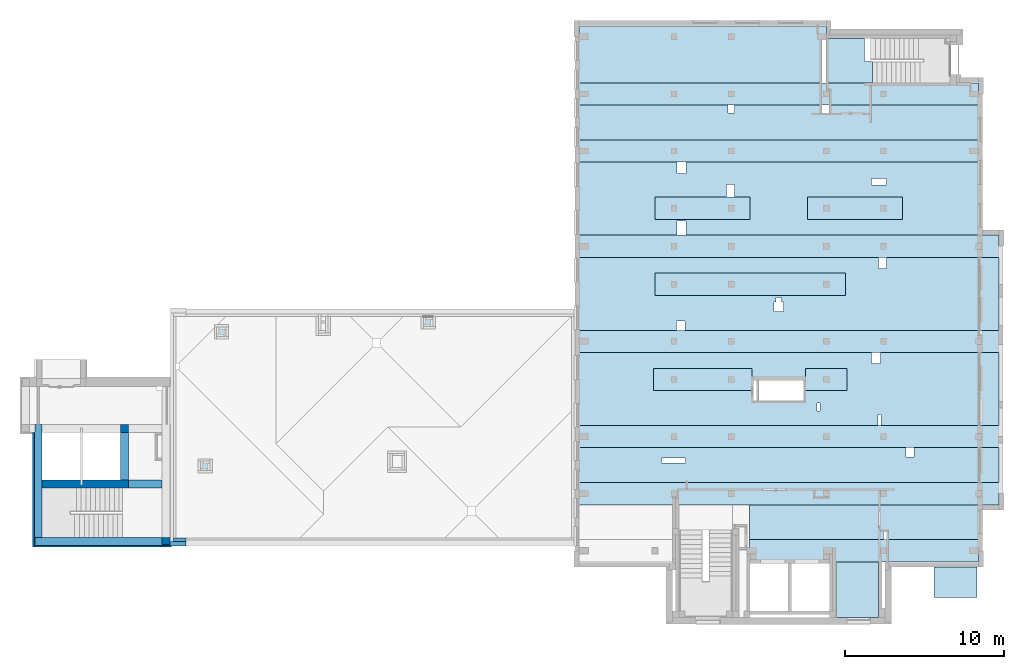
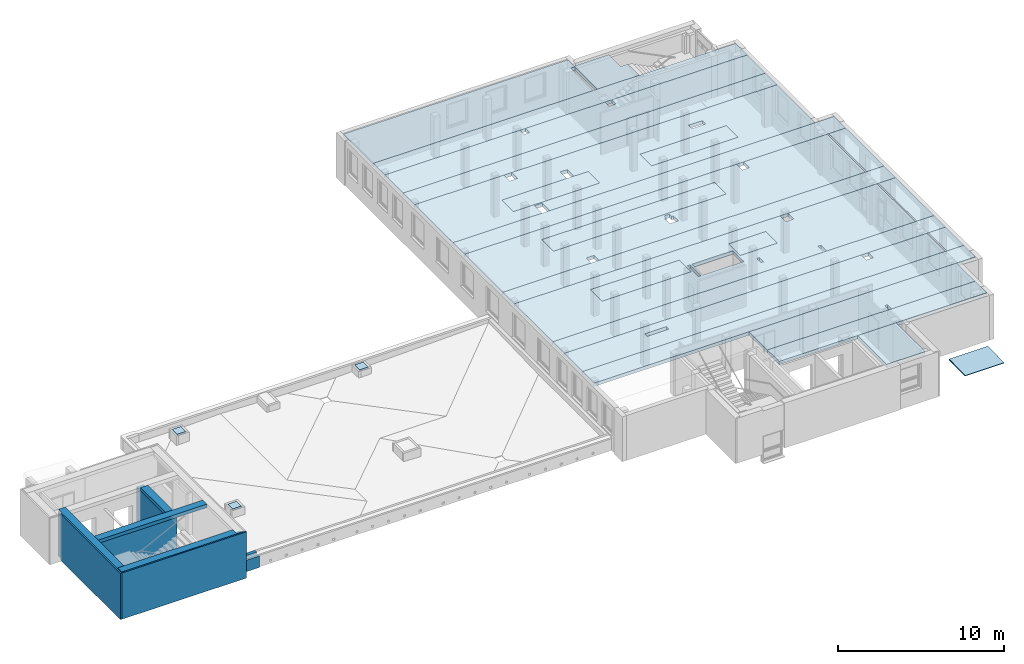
# One storey, part 3 of 27: 28 slabs, 10 walls, 19 openings, 1 element without a shape of its own.
"""IFC4 building model written with IfcOpenShell, lengths in metres."""

from ifc_helpers import new_model, entity, si_unit, converted_unit, derived_unit, frame, frame_2d, origin, origin_with_axes, place, context, subcontext, project, spatial, polyline, rectangle, outline, extrude, clip, bounded_halfspace, material, layer, layer_set, layer_usage, element, aggregate, save


model = new_model("IFC4")

# Units and contexts
model_context = context("Model", 3, precision=1e-05, world=origin())
body_context = subcontext(model_context, "Body", "Model", "MODEL_VIEW")
ifc_project = project(units=[si_unit("LENGTHUNIT", "METRE"), si_unit("AREAUNIT", "SQUARE_METRE"), si_unit("VOLUMEUNIT", "CUBIC_METRE"), si_unit("MASSUNIT", "GRAM", prefix="KILO"), converted_unit("PLANEANGLEUNIT", "DEGREE", entity("IfcPlaneAngleMeasure", 0.0174532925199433), si_unit("PLANEANGLEUNIT", "RADIAN"), dimensions=[0, 0, 0, 0, 0, 0, 0]), derived_unit("THERMALTRANSMITTANCEUNIT", [(si_unit("POWERUNIT", "WATT"), 1), (si_unit("THERMODYNAMICTEMPERATUREUNIT", "KELVIN"), -1), (si_unit("LENGTHUNIT", "METRE"), -2)]), derived_unit("VOLUMETRICFLOWRATEUNIT", [(si_unit("LENGTHUNIT", "METRE"), 3), (converted_unit("TIMEUNIT", "hour", entity("IfcTimeMeasure", 3600.0), si_unit("TIMEUNIT", "SECOND"), dimensions=[0, 0, 1, 0, 0, 0, 0]), -1), (si_unit("LENGTHUNIT", "METRE"), -1)])], contexts=[model_context])

# Site, building, storey
site_placement = place(None, origin())
site = spatial("IfcSite", under=ifc_project, at=site_placement, Name="3. ASŘ", CompositionType="ELEMENT")
building_placement = place(site_placement, origin())
building = spatial("IfcBuilding", under=site, at=building_placement, Name="Pavilon C", CompositionType="ELEMENT")
storey_placement = place(building_placement, frame((0.0, 0.0, 7.2)))
storey = spatial("IfcBuildingStorey", under=building, at=storey_placement, Name="Půdorys 3.NP", CompositionType="ELEMENT", Elevation=7.2)

# Slab, opening
ifc_material_1 = material(Name="PZD")
slab_1_placement = place(storey_placement, frame((35.52, 0.699999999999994, 2.95)))
slab_1 = element("IfcSlab", 1, at=slab_1_placement, inside=storey, material=ifc_material_1, PredefinedType="FLOOR", context=body_context, shape_type="SweptSolid", body=[
    extrude(rectangle(XDim=14.43, YDim=2.2, at=frame_2d((7.215, 1.1), x_axis=(1.0, -7.87850573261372e-18))), frame((0.0, 1.13686837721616e-16, 0.0), z_axis=(0.0, 0.0, 1.0), x_axis=(1.0, 0.0, 0.0)), (0.0, 0.0, 1.0), 0.25),
])
opening_1_placement = place(slab_1_placement, frame((8.43, -1.70530256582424e-15, 0.0)))
element("IfcOpeningElement", 2, at=opening_1_placement, cuts=slab_1, Name="Prostup deskou", ObjectType="Opening", context=body_context, shape_type="SweptSolid", body=[
    extrude(rectangle(XDim=0.5, YDim=0.2, at=frame_2d((7.27595761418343e-15, 0.0), x_axis=(0.0, -1.0))), frame((0.0999999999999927, 0.25, 0.0), z_axis=(0.0, 0.0, 1.0), x_axis=(1.0, 0.0, 0.0)), (0.0, 0.0, 1.0), 0.25),
])

# Slabs
ifc_material_2 = material(Name="RZT")
slab_2_placement = place(storey_placement, frame((39.15, 20.9, 2.95)))
element("IfcSlab", 3, at=slab_2_placement, inside=storey, material=ifc_material_2, PredefinedType="FLOOR", context=body_context, shape_type="SweptSolid", body=[
    extrude(rectangle(XDim=1.4, YDim=6.0, at=frame_2d((-3.0, 0.7), x_axis=(0.0, 1.0))), frame((6.0, 0.0, 0.0), z_axis=(0.0, 0.0, 1.0), x_axis=(1.0, 0.0, 0.0)), (0.0, 0.0, 1.0), 0.25),
])
ifc_material_3 = material(Name="RZT")
slab_3_placement = place(storey_placement, frame((24.75, 24.5, 2.95)))
element("IfcSlab", 4, at=slab_3_placement, inside=storey, material=ifc_material_3, PredefinedType="FLOOR", context=body_context, shape_type="SweptSolid", body=[
    extrude(rectangle(XDim=1.4, YDim=25.2, at=frame_2d((-12.6, 0.700000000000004), x_axis=(0.0, 1.0))), frame((25.2, 0.0, 0.0), z_axis=(0.0, 0.0, 1.0), x_axis=(1.0, 0.0, 0.0)), (0.0, 0.0, 1.0), 0.25),
])
ifc_material_4 = material(Name="RZT")
slab_4_placement = place(storey_placement, frame((29.55, 20.9, 2.95)))
element("IfcSlab", 5, at=slab_4_placement, inside=storey, material=ifc_material_4, PredefinedType="FLOOR", context=body_context, shape_type="SweptSolid", body=[
    extrude(rectangle(XDim=1.4, YDim=6.0, at=frame_2d((-3.0, 0.7), x_axis=(0.0, 1.0))), frame((6.0, 0.0, 0.0), z_axis=(0.0, 0.0, 1.0), x_axis=(1.0, 0.0, 0.0)), (0.0, 0.0, 1.0), 0.25),
])

# Slab, openings
ifc_material_5 = material(Name="PZD")
slab_5_placement = place(storey_placement, frame((24.75, 19.9, 2.95)))
slab_5 = element("IfcSlab", 6, at=slab_5_placement, inside=storey, material=ifc_material_5, PredefinedType="FLOOR", context=body_context, shape_type="SweptSolid", body=[
    extrude(outline(polyline([(0.0, 4.59999999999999), (0.0, 0.0), (25.2, 0.0), (25.2, 4.59999999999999), (0.0, 4.59999999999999)]), holes=[polyline([(20.4, 0.999999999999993), (14.4, 0.999999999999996), (14.4, 2.4), (20.4, 2.4), (20.4, 0.999999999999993)]), polyline([(4.8, 0.999999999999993), (4.8, 2.4), (10.8, 2.39999999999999), (10.8, 0.999999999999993), (4.8, 0.999999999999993)])]), origin_with_axes(), (0.0, 0.0, 1.0), 0.25),
])
opening_2_placement = place(slab_5_placement, frame((6.2, 3.9, 0.0)))
element("IfcOpeningElement", 7, at=opening_2_placement, cuts=slab_5, Name="Prostup deskou", ObjectType="Opening", context=body_context, shape_type="SweptSolid", body=[
    extrude(rectangle(XDim=0.7, YDim=0.55, at=frame_2d((7.27595761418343e-15, -3.63797880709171e-15), x_axis=(0.0, -1.0))), frame((0.274999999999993, 0.350000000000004, 0.0), z_axis=(0.0, 0.0, 1.0), x_axis=(1.0, 0.0, 0.0)), (0.0, 0.0, 1.0), 0.25),
])
opening_3_placement = place(slab_5_placement, frame((9.3, 2.4, 0.0)))
element("IfcOpeningElement", 8, at=opening_3_placement, cuts=slab_5, Name="Prostup deskou", ObjectType="Opening", context=body_context, shape_type="SweptSolid", body=[
    extrude(rectangle(XDim=0.8, YDim=0.5, at=frame_2d((7.27595761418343e-15, -3.63797880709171e-15), x_axis=(0.0, -1.0))), frame((0.249999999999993, 0.400000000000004, 0.0), z_axis=(0.0, 0.0, 1.0), x_axis=(1.0, 0.0, 0.0)), (0.0, 0.0, 1.0), 0.25),
])
opening_4_placement = place(slab_5_placement, frame((18.45, 3.17499999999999, 0.0)))
element("IfcOpeningElement", 9, at=opening_4_placement, cuts=slab_5, Name="Prostup deskou", ObjectType="Opening", context=body_context, shape_type="SweptSolid", body=[
    extrude(rectangle(XDim=0.4, YDim=0.95, at=frame_2d((7.27595761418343e-15, -3.63797880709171e-15), x_axis=(0.0, -1.0))), frame((0.474999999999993, 0.200000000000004, 0.0), z_axis=(0.0, 0.0, 1.0), x_axis=(1.0, 0.0, 0.0)), (0.0, 0.0, 1.0), 0.25),
])
opening_5_placement = place(slab_5_placement, frame((6.2, 0.0, 0.0)))
element("IfcOpeningElement", 10, at=opening_5_placement, cuts=slab_5, Name="Prostup deskou", ObjectType="Opening", context=body_context, shape_type="SweptSolid", body=[
    extrude(rectangle(XDim=0.9, YDim=0.55, at=frame_2d((7.27595761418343e-15, 0.0), x_axis=(0.0, -1.0))), frame((0.274999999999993, 0.45, 0.0), z_axis=(0.0, 0.0, 1.0), x_axis=(1.0, 0.0, 0.0)), (0.0, 0.0, 1.0), 0.25),
])

# Slabs
ifc_material_6 = material(Name="RZT")
slab_6_placement = place(storey_placement, frame((29.55, 16.1, 2.95)))
element("IfcSlab", 11, at=slab_6_placement, inside=storey, material=ifc_material_6, PredefinedType="FLOOR", context=body_context, shape_type="SweptSolid", body=[
    extrude(rectangle(XDim=1.4, YDim=12.0, at=frame_2d((-6.0, 0.7), x_axis=(0.0, 1.0))), frame((12.0, 0.0, 0.0), z_axis=(0.0, 0.0, 1.0), x_axis=(1.0, 0.0, 0.0)), (0.0, 0.0, 1.0), 0.25),
])
ifc_material_7 = material(Name="PZD")
slab_7_placement = place(storey_placement, frame((50.05, 13.9, 2.95)))
element("IfcSlab", 12, at=slab_7_placement, inside=storey, material=ifc_material_7, PredefinedType="FLOOR", context=body_context, shape_type="SweptSolid", body=[
    extrude(rectangle(XDim=1.2, YDim=4.6, at=frame_2d((0.6, 2.3), x_axis=(1.0, 0.0))), origin_with_axes(), (0.0, 0.0, 1.0), 0.25),
])
ifc_material_8 = material(Name="PZD")
slab_8_placement = place(storey_placement, frame((50.05, 7.89999999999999, 2.95)))
element("IfcSlab", 13, at=slab_8_placement, inside=storey, material=ifc_material_8, PredefinedType="FLOOR", context=body_context, shape_type="SweptSolid", body=[
    extrude(rectangle(XDim=1.2, YDim=4.6, at=frame_2d((0.6, 2.3), x_axis=(1.0, 0.0))), origin_with_axes(), (0.0, 0.0, 1.0), 0.25),
])
ifc_material_9 = material(Name="PZD")
slab_9_placement = place(storey_placement, frame((50.05, 4.29999999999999, 2.95)))
element("IfcSlab", 14, at=slab_9_placement, inside=storey, material=ifc_material_9, PredefinedType="FLOOR", context=body_context, shape_type="SweptSolid", body=[
    extrude(rectangle(XDim=1.2, YDim=2.2, at=frame_2d((0.6, 1.1), x_axis=(1.0, 0.0))), origin_with_axes(), (0.0, 0.0, 1.0), 0.25),
])
ifc_material_10 = material(Name="RZT")
slab_10_placement = place(storey_placement, frame((24.75, 2.89999999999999, 2.95)))
element("IfcSlab", 15, at=slab_10_placement, inside=storey, material=ifc_material_10, PredefinedType="FLOOR", context=body_context, shape_type="SweptSolid", body=[
    extrude(rectangle(XDim=1.4, YDim=26.5, at=frame_2d((-13.25, 0.700000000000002), x_axis=(0.0, 1.0))), frame((26.5, 0.0, 0.0), z_axis=(0.0, 0.0, 1.0), x_axis=(1.0, 0.0, 0.0)), (0.0, 0.0, 1.0), 0.25),
])
ifc_material_11 = material(Name="RZT")
slab_11_placement = place(storey_placement, frame((24.75, 18.5, 2.95)))
element("IfcSlab", 16, at=slab_11_placement, inside=storey, material=ifc_material_11, PredefinedType="FLOOR", context=body_context, shape_type="SweptSolid", body=[
    extrude(rectangle(XDim=1.4, YDim=26.5, at=frame_2d((-13.25, 0.7), x_axis=(0.0, 1.0))), frame((26.5, 0.0, 0.0), z_axis=(0.0, 0.0, 1.0), x_axis=(1.0, 0.0, 0.0)), (0.0, 0.0, 1.0), 0.25),
])

# Slab, openings
ifc_material_12 = material(Name="PZD")
slab_12_placement = place(storey_placement, frame((24.75, 13.9, 2.95)))
slab_12 = element("IfcSlab", 17, at=slab_12_placement, inside=storey, material=ifc_material_12, PredefinedType="FLOOR", context=body_context, shape_type="SweptSolid", body=[
    extrude(outline(polyline([(0.0, 4.6), (0.0, 0.0), (25.2, 0.0), (25.2, 4.6), (0.0, 4.6)]), holes=[polyline([(4.8, 3.6), (16.8, 3.6), (16.8, 2.2), (4.8, 2.2), (4.8, 3.6)])]), origin_with_axes(), (0.0, 0.0, 1.0), 0.25),
])
opening_6_placement = place(slab_12_placement, frame((6.15, 0.0, 0.0)))
element("IfcOpeningElement", 18, at=opening_6_placement, cuts=slab_12, Name="Prostup deskou", ObjectType="Opening", context=body_context, shape_type="SweptSolid", body=[
    extrude(rectangle(XDim=0.6, YDim=0.55, at=frame_2d((7.27595761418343e-15, -1.81898940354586e-15), x_axis=(0.0, -1.0))), frame((0.274999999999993, 0.300000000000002, 0.0), z_axis=(0.0, 0.0, 1.0), x_axis=(1.0, 0.0, 0.0)), (0.0, 0.0, 1.0), 0.25),
])
opening_7_placement = place(slab_12_placement, frame((18.9, 3.9, 0.0)))
element("IfcOpeningElement", 19, at=opening_7_placement, cuts=slab_12, Name="Prostup deskou", ObjectType="Opening", context=body_context, shape_type="SweptSolid", body=[
    extrude(rectangle(XDim=0.7, YDim=0.5, at=frame_2d((7.27595761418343e-15, -3.63797880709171e-15), x_axis=(0.0, -1.0))), frame((0.249999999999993, 0.350000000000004, 0.0), z_axis=(0.0, 0.0, 1.0), x_axis=(1.0, 0.0, 0.0)), (0.0, 0.0, 1.0), 0.25),
])
opening_8_placement = place(slab_12_placement, frame((12.425, 1.8, 0.0)))
element("IfcOpeningElement", 20, at=opening_8_placement, cuts=slab_12, Name="Prostup deskou", ObjectType="Opening", context=body_context, shape_type="SweptSolid", body=[
    extrude(rectangle(XDim=0.275, YDim=0.35, at=frame_2d((7.27595761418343e-15, -3.63797880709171e-15), x_axis=(0.0, -1.0))), frame((0.174999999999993, 0.137500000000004, 0.0), z_axis=(0.0, 0.0, 1.0), x_axis=(1.0, 0.0, 0.0)), (0.0, 0.0, 1.0), 0.25),
])
opening_9_placement = place(slab_12_placement, frame((12.3, 1.2, 0.0)))
element("IfcOpeningElement", 21, at=opening_9_placement, cuts=slab_12, Name="Prostup deskou", ObjectType="Opening", context=body_context, shape_type="SweptSolid", body=[
    extrude(rectangle(XDim=0.6, YDim=0.6, at=frame_2d((7.27595761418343e-15, -3.63797880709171e-15), x_axis=(0.0, -1.0))), frame((0.299999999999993, 0.300000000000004, 0.0), z_axis=(0.0, 0.0, 1.0), x_axis=(1.0, 0.0, 0.0)), (0.0, 0.0, 1.0), 0.25),
])

# Slabs
ifc_material_13 = material(Name="PZD")
slab_13_placement = place(storey_placement, frame((40.98, -4.2, 2.95)))
element("IfcSlab", 22, at=slab_13_placement, inside=storey, material=ifc_material_13, PredefinedType="FLOOR", context=body_context, shape_type="SweptSolid", body=[
    extrude(rectangle(XDim=3.5, YDim=2.67, at=frame_2d((1.335, -1.75), x_axis=(-2.07884503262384e-15, -1.0))), frame((7.27595761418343e-15, 3.5, 0.0), z_axis=(0.0, 0.0, 1.0), x_axis=(1.0, 0.0, 0.0)), (0.0, 0.0, 1.0), 0.25),
])
ifc_material_14 = material(Name="RZT")
slab_14_placement = place(storey_placement, frame((35.52, -0.700000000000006, 2.95)))
element("IfcSlab", 23, at=slab_14_placement, inside=storey, material=ifc_material_14, PredefinedType="FLOOR", context=body_context, shape_type="SweptSolid", body=[
    extrude(rectangle(XDim=1.4, YDim=14.43, at=frame_2d((-7.215, 0.700000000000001), x_axis=(0.0, 1.0))), frame((14.43, 0.0, 0.0), z_axis=(0.0, 0.0, 1.0), x_axis=(1.0, 0.0, 0.0)), (0.0, 0.0, 1.0), 0.25),
])
ifc_material_15 = material(Name="RZT")
slab_15_placement = place(storey_placement, frame((24.75, 6.49999999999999, 2.95)))
element("IfcSlab", 24, at=slab_15_placement, inside=storey, material=ifc_material_15, PredefinedType="FLOOR", context=body_context, shape_type="SweptSolid", body=[
    extrude(rectangle(XDim=1.4, YDim=26.5, at=frame_2d((-13.25, 0.700000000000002), x_axis=(0.0, 1.0))), frame((26.5, 0.0, 0.0), z_axis=(0.0, 0.0, 1.0), x_axis=(1.0, 0.0, 0.0)), (0.0, 0.0, 1.0), 0.25),
])
ifc_material_16 = material(Name="RZT")
slab_16_placement = place(storey_placement, frame((24.75, 12.5, 2.95)))
element("IfcSlab", 25, at=slab_16_placement, inside=storey, material=ifc_material_16, PredefinedType="FLOOR", context=body_context, shape_type="SweptSolid", body=[
    extrude(rectangle(XDim=1.4, YDim=26.5, at=frame_2d((-13.25, 0.700000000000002), x_axis=(0.0, 1.0))), frame((26.5, 0.0, 0.0), z_axis=(0.0, 0.0, 1.0), x_axis=(1.0, 0.0, 0.0)), (0.0, 0.0, 1.0), 0.25),
])

# Slab, openings
ifc_material_17 = material(Name="PZD")
slab_17_placement = place(storey_placement, frame((24.75, 7.9, 2.95)))
slab_17 = element("IfcSlab", 26, at=slab_17_placement, inside=storey, material=ifc_material_17, PredefinedType="FLOOR", context=body_context, shape_type="SweptSolid", body=[
    extrude(outline(polyline([(25.2, 0.0), (25.2, 4.6), (0.0, 4.6), (0.0, 0.0), (25.2, 0.0)]), holes=[polyline([(10.9, 2.19999999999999), (4.7, 2.19999999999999), (4.7, 3.59999999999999), (10.9, 3.59999999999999), (10.9, 2.19999999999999)]), polyline([(14.3, 2.2), (14.3, 3.59999999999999), (16.9, 3.59999999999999), (16.9, 2.19999999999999), (14.3, 2.2)])]), origin_with_axes(), (0.0, 0.0, 1.0), 0.25),
])
opening_10_placement = place(slab_17_placement, frame((15.0, 0.924999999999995, 0.0)))
element("IfcOpeningElement", 27, at=opening_10_placement, cuts=slab_17, Name="Prostup deskou", ObjectType="Opening", context=body_context, shape_type="SweptSolid", body=[
    extrude(rectangle(XDim=0.5, YDim=0.2, at=frame_2d((7.27595761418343e-15, 0.0), x_axis=(0.0, -1.0))), frame((0.0999999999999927, 0.25, 0.0), z_axis=(0.0, 0.0, 1.0), x_axis=(1.0, 0.0, 0.0)), (0.0, 0.0, 1.0), 0.25),
])
opening_11_placement = place(slab_17_placement, frame((18.45, 3.9, 0.0)))
element("IfcOpeningElement", 28, at=opening_11_placement, cuts=slab_17, Name="Prostup deskou", ObjectType="Opening", context=body_context, shape_type="SweptSolid", body=[
    extrude(rectangle(XDim=0.7, YDim=0.55, at=frame_2d((7.27595761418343e-15, 0.0), x_axis=(0.0, -1.0))), frame((0.274999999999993, 0.35, 0.0), z_axis=(0.0, 0.0, 1.0), x_axis=(1.0, 0.0, 0.0)), (0.0, 0.0, 1.0), 0.25),
])
opening_12_placement = place(slab_17_placement, frame((18.85, -4.54747350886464e-15, 0.0)))
element("IfcOpeningElement", 29, at=opening_12_placement, cuts=slab_17, Name="Prostup deskou", ObjectType="Opening", context=body_context, shape_type="SweptSolid", body=[
    extrude(rectangle(XDim=0.7, YDim=0.2, at=frame_2d((7.27595761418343e-15, 0.0), x_axis=(0.0, -1.0))), frame((0.0999999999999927, 0.35, 0.0), z_axis=(0.0, 0.0, 1.0), x_axis=(1.0, 0.0, 0.0)), (0.0, 0.0, 1.0), 0.25),
])
opening_13_placement = place(slab_17_placement, frame((11.3375, 1.55, 0.0)))
element("IfcOpeningElement", 30, at=opening_13_placement, cuts=slab_17, Name="Prostup deskou", ObjectType="Opening", context=body_context, shape_type="SweptSolid", body=[
    extrude(rectangle(XDim=1.3, YDim=2.85, at=frame_2d((7.27595761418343e-15, 0.0), x_axis=(0.0, -1.0))), frame((1.42499999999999, 0.65, 0.0), z_axis=(0.0, 0.0, 1.0), x_axis=(1.0, 0.0, 0.0)), (0.0, 0.0, 1.0), 0.25),
])
opening_14_placement = place(slab_17_placement, frame((11.0125, 1.55, 0.0)))
element("IfcOpeningElement", 31, at=opening_14_placement, cuts=slab_17, Name="Prostup deskou", ObjectType="Opening", context=body_context, shape_type="SweptSolid", body=[
    extrude(rectangle(XDim=1.3, YDim=0.2, at=frame_2d((7.27595761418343e-15, 0.0), x_axis=(0.0, -1.0))), frame((0.0999999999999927, 0.65, 0.0), z_axis=(0.0, 0.0, 1.0), x_axis=(1.0, 0.0, 0.0)), (0.0, 0.0, 1.0), 0.25),
])

# Slabs
ifc_material_18 = material(Name="RZT")
slab_18_placement = place(storey_placement, frame((29.45, 10.1, 2.95)))
element("IfcSlab", 32, at=slab_18_placement, inside=storey, material=ifc_material_18, PredefinedType="FLOOR", context=body_context, shape_type="SweptSolid", body=[
    extrude(rectangle(XDim=1.4, YDim=6.2, at=frame_2d((-3.1, 0.7), x_axis=(0.0, 1.0))), frame((6.2, 0.0, 0.0), z_axis=(0.0, 0.0, 1.0), x_axis=(1.0, 0.0, 0.0)), (0.0, 0.0, 1.0), 0.25),
])
ifc_material_19 = material(Name="RZT")
slab_19_placement = place(storey_placement, frame((39.05, 10.1, 2.95)))
element("IfcSlab", 33, at=slab_19_placement, inside=storey, material=ifc_material_19, PredefinedType="FLOOR", context=body_context, shape_type="SweptSolid", body=[
    extrude(rectangle(XDim=1.4, YDim=2.6, at=frame_2d((-1.3, 0.7), x_axis=(0.0, 1.0))), frame((2.6, 0.0, 0.0), z_axis=(0.0, 0.0, 1.0), x_axis=(1.0, 0.0, 0.0)), (0.0, 0.0, 1.0), 0.25),
])

# Slab, openings
ifc_material_20 = material(Name="PZD")
slab_20_placement = place(storey_placement, frame((24.75, 4.3, 2.95)))
slab_20 = element("IfcSlab", 34, at=slab_20_placement, inside=storey, material=ifc_material_20, PredefinedType="FLOOR", context=body_context, shape_type="SweptSolid", body=[
    extrude(rectangle(XDim=2.2, YDim=25.2, at=frame_2d((-12.6, 1.1), x_axis=(0.0, 1.0))), frame((25.2, 0.0, 0.0), z_axis=(0.0, 0.0, 1.0), x_axis=(1.0, 0.0, 0.0)), (0.0, 0.0, 1.0), 0.25),
])
opening_15_placement = place(slab_20_placement, frame((20.63, 1.6, 0.0)))
element("IfcOpeningElement", 35, at=opening_15_placement, cuts=slab_20, Name="Prostup deskou", ObjectType="Opening", context=body_context, shape_type="SweptSolid", body=[
    extrude(rectangle(XDim=0.6, YDim=0.5, at=frame_2d((7.27595761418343e-15, 0.0), x_axis=(0.0, -1.0))), frame((0.249999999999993, 0.3, 0.0), z_axis=(0.0, 0.0, 1.0), x_axis=(1.0, 0.0, 0.0)), (0.0, 0.0, 1.0), 0.25),
])
opening_16_placement = place(slab_20_placement, frame((5.225, 1.25, 0.0)))
element("IfcOpeningElement", 36, at=opening_16_placement, cuts=slab_20, Name="Prostup deskou", ObjectType="Opening", context=body_context, shape_type="SweptSolid", body=[
    extrude(rectangle(XDim=0.3, YDim=1.5, at=frame_2d((3.63797880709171e-15, -9.09494701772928e-16), x_axis=(0.0, -1.0))), frame((0.749999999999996, 0.150000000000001, 0.0), z_axis=(0.0, 0.0, 1.0), x_axis=(1.0, 0.0, 0.0)), (0.0, 0.0, 1.0), 0.25),
])

ifc_material_21 = material(Name="PZD")
slab_21_placement = place(storey_placement, frame((24.75, 25.9, 2.95)))
slab_21 = element("IfcSlab", 37, at=slab_21_placement, inside=storey, material=ifc_material_21, PredefinedType="FLOOR", context=body_context, shape_type="SweptSolid", body=[
    extrude(rectangle(XDim=25.2, YDim=2.2, at=frame_2d((12.6, 1.1), x_axis=(1.0, -1.44364238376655e-16))), frame((0.0, 3.63797880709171e-15, 0.0), z_axis=(0.0, 0.0, 1.0), x_axis=(1.0, 0.0, 0.0)), (0.0, 0.0, 1.0), 0.25),
])
opening_17_placement = place(slab_21_placement, frame((9.4, 1.7, 0.0)))
element("IfcOpeningElement", 38, at=opening_17_placement, cuts=slab_21, Name="Prostup deskou", ObjectType="Opening", context=body_context, shape_type="SweptSolid", body=[
    extrude(rectangle(XDim=0.5, YDim=0.4, at=frame_2d((7.27595761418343e-15, -3.63797880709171e-15), x_axis=(0.0, -1.0))), frame((0.199999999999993, 0.250000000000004, 0.0), z_axis=(0.0, 0.0, 1.0), x_axis=(1.0, 0.0, 0.0)), (0.0, 0.0, 1.0), 0.25),
])
opening_18_placement = place(slab_21_placement, frame((15.3, 1.7, 0.0)))
element("IfcOpeningElement", 39, at=opening_18_placement, cuts=slab_21, Name="Prostup deskou", ObjectType="Opening", context=body_context, shape_type="SweptSolid", body=[
    extrude(rectangle(XDim=0.5, YDim=0.5, at=frame_2d((7.27595761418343e-15, -3.63797880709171e-15), x_axis=(0.0, -1.0))), frame((0.249999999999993, 0.250000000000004, 0.0), z_axis=(0.0, 0.0, 1.0), x_axis=(1.0, 0.0, 0.0)), (0.0, 0.0, 1.0), 0.25),
])

# Slab, opening
ifc_material_22 = material(Name="PZD")
slab_22_placement = place(storey_placement, frame((24.75, 29.5, 2.95)))
slab_22 = element("IfcSlab", 40, at=slab_22_placement, inside=storey, material=ifc_material_22, PredefinedType="FLOOR", context=body_context, shape_type="SweptSolid", body=[
    extrude(outline(polyline([(0.0, 3.63797880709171e-15), (18.4998, 0.0), (18.4998, 1.35), (18.0, 1.35), (18.0, 2.8), (15.6, 2.8), (15.6, 3.55), (0.0, 3.55), (0.0, 3.63797880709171e-15)])), origin_with_axes(), (0.0, 0.0, 1.0), 0.25),
])
opening_19_placement = place(slab_22_placement, frame((15.3, 0.0, 0.0)))
element("IfcOpeningElement", 41, at=opening_19_placement, cuts=slab_22, Name="Prostup deskou", ObjectType="Opening", context=body_context, shape_type="SweptSolid", body=[
    extrude(rectangle(XDim=2.7, YDim=0.3, at=frame_2d((7.27595761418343e-15, -3.63797880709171e-15), x_axis=(0.0, -1.0))), frame((0.149999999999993, 1.35, 0.0), z_axis=(0.0, 0.0, 1.0), x_axis=(1.0, 0.0, 0.0)), (0.0, 0.0, 1.0), 0.25),
])

# Slabs
ifc_material_23 = material(Name="RZT")
slab_23_placement = place(storey_placement, frame((24.75, 28.1, 2.95)))
element("IfcSlab", 42, at=slab_23_placement, inside=storey, material=ifc_material_23, PredefinedType="FLOOR", context=body_context, shape_type="SweptSolid", body=[
    extrude(rectangle(XDim=1.4, YDim=25.2, at=frame_2d((-12.6, 0.700000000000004), x_axis=(0.0, 1.0))), frame((25.2, 0.0, 0.0), z_axis=(0.0, 0.0, 1.0), x_axis=(1.0, 0.0, 0.0)), (0.0, 0.0, 1.0), 0.25),
])
ifc_material_24 = material(Name="SPÁDOVÉ KLÍNY PIR 3%")
slab_24_placement = place(storey_placement, frame((47.15, -2.94000000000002, -0.589999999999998)))
element("IfcSlab", 43, at=slab_24_placement, inside=storey, material=ifc_material_24, PredefinedType="FLOOR", context=body_context, shape_type="Clipping", body=[
    clip(clip(extrude(rectangle(XDim=2.7, YDim=1.92, at=frame_2d((1.35, 0.96), x_axis=(1.0, 0.0))), origin_with_axes(), (0.0, 0.0, 1.0), 0.0776000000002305), bounded_halfspace(frame((1.35, 0.96, -9.09494701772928e-16), z_axis=(0.0, 0.0, 1.0), x_axis=(1.0, 0.0, 0.0)), True, origin_with_axes(), polyline([(0.0, 0.0), (2.7, 0.0), (2.7, 1.92), (0.0, 1.92), (0.0, 0.0)]))), bounded_halfspace(frame((1.35, 0.96, 0.0488000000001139), z_axis=(2.66552907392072e-18, 0.0299865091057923, -0.999550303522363), x_axis=(1.0, -8.88909430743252e-17, 0.0)), True, origin_with_axes(), polyline([(0.0, 0.0), (2.7, 0.0), (2.7, 1.92), (0.0, 1.92), (0.0, 0.0)]))),
])
ifc_material_25 = material(Name="MINERÁLNÍ VATA")
slab_25_placement = place(storey_placement, frame((1.92500000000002, 13.505, 0.9)))
element("IfcSlab", 44, at=slab_25_placement, inside=storey, material=ifc_material_25, PredefinedType="FLOOR", context=body_context, shape_type="SweptSolid", body=[
    extrude(rectangle(XDim=0.600000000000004, YDim=0.600000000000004, at=frame_2d((0.300000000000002, 0.300000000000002), x_axis=(1.0, 0.0))), origin_with_axes(), (0.0, 0.0, 1.0), 0.1),
])
ifc_material_26 = material(Name="MINERÁLNÍ VATA")
slab_26_placement = place(storey_placement, frame((0.900000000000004, 5.05, 0.9)))
element("IfcSlab", 45, at=slab_26_placement, inside=storey, material=ifc_material_26, PredefinedType="FLOOR", context=body_context, shape_type="SweptSolid", body=[
    extrude(rectangle(XDim=0.600000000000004, YDim=0.600000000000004, at=frame_2d((0.300000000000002, 0.300000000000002), x_axis=(1.0, 0.0))), origin_with_axes(), (0.0, 0.0, 1.0), 0.1),
])
ifc_material_27 = material(Name="MINERÁLNÍ VATA")
slab_27_placement = place(storey_placement, frame((14.95, 14.13, 0.7)))
element("IfcSlab", 46, at=slab_27_placement, inside=storey, material=ifc_material_27, PredefinedType="FLOOR", context=body_context, shape_type="SweptSolid", body=[
    extrude(rectangle(XDim=0.600000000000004, YDim=0.600000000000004, at=frame_2d((0.300000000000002, 0.300000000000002), x_axis=(1.0, 0.0))), origin_with_axes(), (0.0, 0.0, 1.0), 0.1),
])

# Roof, slab
roof_placement = place(storey_placement, frame((0.0, 0.0, -7.2)))
roof = element("IfcRoof", 47, at=roof_placement, inside=storey, PredefinedType="NOTDEFINED")
ifc_material_28 = material(Name="ASFALTOVÁ HYDROIZOLACE")
ifc_layer_1 = layer(ifc_material_28, 0.01)
ifc_material_29 = material(Name="I.S4 - KAČÍREK")
ifc_layer_2 = layer(ifc_material_29, 0.01)
ifc_layer_set_1 = layer_set([ifc_layer_1, ifc_layer_2])
ifc_layer_usage_1 = layer_usage(ifc_layer_set_1, "AXIS3", "POSITIVE", 0.0)
slab_28_placement = place(roof_placement, frame((47.15, -2.94000000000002, 6.63)))
slab_28 = element("IfcSlab", 48, at=slab_28_placement, material=ifc_layer_usage_1, PredefinedType="ROOF", context=body_context, shape_type="SweptSolid", body=[
    extrude(rectangle(XDim=2.7, YDim=1.92086380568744, at=frame_2d((0.0, 0.0), x_axis=(-1.0, 0.0))), frame((1.35, 0.96, 0.0288000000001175), z_axis=(0.0, -0.0299865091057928, 0.999550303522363), x_axis=(-1.0, 0.0, 0.0)), (0.0, -0.0299865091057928, 0.999550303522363), 0.0200089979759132),
])
aggregate(roof, [slab_28])

# Walls
ifc_material_30 = material(Name="ZDIVO Z CDm")
ifc_layer_3 = layer(ifc_material_30, 0.5)
ifc_layer_set_2 = layer_set([ifc_layer_3])
ifc_layer_usage_2 = layer_usage(ifc_layer_set_2, "AXIS2", "POSITIVE", 0.0)
wall_1_placement = place(storey_placement, frame((-9.07499999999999, 3.95, -0.52)))
element("IfcWall", 49, at=wall_1_placement, inside=storey, material=ifc_layer_usage_2, Name="ZDIVO Z CDm", context=body_context, shape_type="SweptSolid", body=[
    extrude(rectangle(XDim=5.45, YDim=0.5, at=frame_2d((2.725, 0.25), x_axis=(1.0, 0.0))), origin_with_axes(), (0.0, 0.0, 1.0), 3.15),
])
ifc_material_31 = material(Name="ZDIVO Z CDm")
ifc_layer_4 = layer(ifc_material_31, 0.5)
ifc_layer_set_3 = layer_set([ifc_layer_4])
ifc_layer_usage_3 = layer_usage(ifc_layer_set_3, "AXIS2", "POSITIVE", 0.0)
wall_2_placement = place(storey_placement, frame((-3.62499999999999, 4.45, -0.52), z_axis=(0.0, 0.0, 1.0), x_axis=(0.0, 1.0, 0.0)))
element("IfcWall", 50, at=wall_2_placement, inside=storey, material=ifc_layer_usage_3, Name="ZDIVO Z CDm", context=body_context, shape_type="SweptSolid", body=[
    extrude(rectangle(XDim=3.5, YDim=0.5, at=frame_2d((1.75, 0.25), x_axis=(1.0, 0.0))), origin_with_axes(), (0.0, 0.0, 1.0), 3.15),
])
ifc_material_32 = material(Name="EPS")
ifc_layer_5 = layer(ifc_material_32, 0.1)
ifc_material_33 = material(Name="ZDIVO Z CDm")
ifc_layer_6 = layer(ifc_material_33, 0.499999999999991)
ifc_layer_set_4 = layer_set([ifc_layer_5, ifc_layer_6])
ifc_layer_usage_4 = layer_usage(ifc_layer_set_4, "AXIS2", "POSITIVE", -0.1)
wall_3_placement = place(storey_placement, frame((-9.67499999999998, 7.45000000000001, -0.52), z_axis=(0.0, 0.0, 1.0), x_axis=(-1.26318708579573e-15, -1.0, 0.0)))
element("IfcWall", 51, at=wall_3_placement, inside=storey, material=ifc_layer_usage_4, Name="ZDIVO Z CDm", context=body_context, shape_type="Clipping", body=[
    clip(extrude(outline(polyline([(-7.20000000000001, 0.0), (0.0, 0.0), (-1.26318708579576e-16, 0.100000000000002), (-0.0999999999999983, 0.100000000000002), (-0.0999999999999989, 0.599999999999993), (-7.7, 0.599999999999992), (-7.7, 0.0999999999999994), (-7.20000000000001, 0.1), (-7.20000000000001, 0.0)])), frame((7.20000000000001, 0.0, 0.0), z_axis=(0.0, 0.0, 1.0), x_axis=(1.0, 0.0, 0.0)), (0.0, 0.0, 1.0), 3.4), bounded_halfspace(frame((2.64000000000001, 0.299999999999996, 3.15), z_axis=(0.0, 0.0, -1.0), x_axis=(1.0, 2.38404323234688e-16, 0.0)), True, origin_with_axes(), polyline([(7.83175993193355e-16, 0.1), (7.10000000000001, 0.100000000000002), (7.10000000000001, 0.599999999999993), (-0.499999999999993, 0.599999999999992), (-0.499999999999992, 0.0999999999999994), (7.83175993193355e-16, 0.1)]))),
])
ifc_material_34 = material(Name="EPS")
ifc_layer_7 = layer(ifc_material_34, 0.0999999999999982)
ifc_material_35 = material(Name="ZDIVO Z CDm")
ifc_layer_8 = layer(ifc_material_35, 0.499999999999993)
ifc_layer_set_5 = layer_set([ifc_layer_7, ifc_layer_8])
ifc_layer_usage_5 = layer_usage(ifc_layer_set_5, "AXIS2", "POSITIVE", -0.1)
wall_4_placement = place(storey_placement, frame((-9.57499999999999, 0.250000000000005, -0.52)))
element("IfcWall", 52, at=wall_4_placement, inside=storey, material=ifc_layer_usage_5, Name="ZDIVO Z CDm", context=body_context, shape_type="Clipping", body=[
    clip(extrude(outline(polyline([(0.0, 0.0), (8.64999999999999, 0.0), (8.64999999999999, 0.0999999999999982), (8.55, 0.0999999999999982), (8.55, 0.599999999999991), (0.499999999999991, 0.599999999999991), (0.499999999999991, 0.0999999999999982), (0.0, 0.0999999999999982), (0.0, 0.0)])), origin_with_axes(), (0.0, 0.0, 1.0), 3.4), bounded_halfspace(frame((4.52499999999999, 0.349999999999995, 3.15), z_axis=(0.0, 0.0, -1.0), x_axis=(1.0, 0.0, 0.0)), True, origin_with_axes(), polyline([(0.499999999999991, 0.0999999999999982), (8.54999999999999, 0.0999999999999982), (8.55, 0.599999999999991), (0.499999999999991, 0.599999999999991), (0.499999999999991, 0.0999999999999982)]))),
])
ifc_material_36 = material(Name="ZELEZOBETONOVÁ KCE")
ifc_layer_9 = layer(ifc_material_36, 0.3)
ifc_layer_set_6 = layer_set([ifc_layer_9])
ifc_layer_usage_6 = layer_usage(ifc_layer_set_6, "AXIS2", "POSITIVE", 0.0)
wall_5_placement = place(storey_placement, frame((-0.999999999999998, 0.300000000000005, -0.1)))
element("IfcWall", 53, at=wall_5_placement, inside=storey, material=ifc_layer_usage_6, Name="ZELEZOBETONOVÁ KCE", context=body_context, shape_type="SweptSolid", body=[
    extrude(rectangle(XDim=1.0, YDim=0.3, at=frame_2d((0.500000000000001, 0.15), x_axis=(1.0, 0.0))), origin_with_axes(), (0.0, 0.0, 1.0), 0.85),
])
ifc_material_37 = material(Name="ZELEZOBETONOVÁ KCE")
ifc_layer_10 = layer(ifc_material_37, 0.5)
ifc_layer_set_7 = layer_set([ifc_layer_10])
ifc_layer_usage_7 = layer_usage(ifc_layer_set_7, "AXIS2", "POSITIVE", 0.0)
wall_6_placement = place(storey_placement, frame((-4.12499999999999, 7.45, 2.63), z_axis=(0.0, 0.0, 1.0), x_axis=(0.0, -1.0, 0.0)))
element("IfcWall", 54, at=wall_6_placement, inside=storey, material=ifc_layer_usage_7, context=body_context, shape_type="SweptSolid", body=[
    extrude(rectangle(XDim=3.0, YDim=0.5, at=frame_2d((1.5, 0.25), x_axis=(1.0, 0.0))), origin_with_axes(), (0.0, 0.0, 1.0), 0.25),
])
ifc_material_38 = material(Name="ZELEZOBETONOVÁ KCE")
ifc_layer_11 = layer(ifc_material_38, 0.5)
ifc_layer_set_8 = layer_set([ifc_layer_11])
ifc_layer_usage_8 = layer_usage(ifc_layer_set_8, "AXIS2", "POSITIVE", 0.0)
wall_7_placement = place(storey_placement, frame((-1.52499999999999, 4.45, 2.63), z_axis=(0.0, 0.0, 1.0), x_axis=(-1.0, 0.0, 0.0)))
element("IfcWall", 55, at=wall_7_placement, inside=storey, material=ifc_layer_usage_8, context=body_context, shape_type="SweptSolid", body=[
    extrude(rectangle(XDim=7.55, YDim=0.5, at=frame_2d((3.775, 0.25), x_axis=(1.0, 0.0))), origin_with_axes(), (0.0, 0.0, 1.0), 0.25),
])
ifc_material_39 = material(Name="ZELEZOBETONOVÁ KCE")
ifc_layer_12 = layer(ifc_material_39, 0.45)
ifc_material_40 = material(Name="LIGNOPOR")
ifc_layer_13 = layer(ifc_material_40, 0.05)
ifc_layer_set_9 = layer_set([ifc_layer_12, ifc_layer_13])
ifc_layer_usage_9 = layer_usage(ifc_layer_set_9, "AXIS2", "POSITIVE", 0.0)
wall_8_placement = place(storey_placement, frame((-9.07499999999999, 0.850000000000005, 2.63), z_axis=(0.0, 0.0, 1.0), x_axis=(0.0, 1.0, 0.0)))
element("IfcWall", 56, at=wall_8_placement, inside=storey, material=ifc_layer_usage_9, context=body_context, shape_type="SweptSolid", body=[
    extrude(outline(polyline([(0.45, -0.5), (7.55, -0.5), (7.55, -0.05), (7.1, -0.05), (7.1, 0.0), (0.0, 0.0), (0.0, -0.05), (0.45, -0.05), (0.45, -0.5)])), frame((-0.45, 0.5, 0.0), z_axis=(0.0, 0.0, 1.0), x_axis=(1.0, 0.0, 0.0)), (0.0, 0.0, 1.0), 0.25),
])
ifc_material_41 = material(Name="ZELEZOBETONOVÁ KCE")
ifc_layer_14 = layer(ifc_material_41, 0.45)
ifc_material_42 = material(Name="LIGNOPOR")
ifc_layer_15 = layer(ifc_material_42, 0.05)
ifc_layer_set_10 = layer_set([ifc_layer_14, ifc_layer_15])
ifc_layer_usage_10 = layer_usage(ifc_layer_set_10, "AXIS2", "POSITIVE", 0.0)
wall_9_placement = place(storey_placement, frame((-1.525, 0.850000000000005, 2.63), z_axis=(0.0, 0.0, 1.0), x_axis=(-1.0, 0.0, 0.0)))
element("IfcWall", 57, at=wall_9_placement, inside=storey, material=ifc_layer_usage_10, context=body_context, shape_type="SweptSolid", body=[
    extrude(outline(polyline([(-8.04999999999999, -0.5), (-0.05, -0.5), (-0.05, -0.05), (0.0, -0.05), (0.0, 0.0), (-8.49999999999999, 0.0), (-8.49999999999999, -0.05), (-8.04999999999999, -0.05), (-8.04999999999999, -0.5)])), frame((8.04999999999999, 0.5, 0.0), z_axis=(0.0, 0.0, 1.0), x_axis=(1.0, 0.0, 0.0)), (0.0, 0.0, 1.0), 0.25),
])
ifc_material_43 = material(Name="MINERÁLNÍ VATA")
ifc_layer_16 = layer(ifc_material_43, 0.22)
ifc_layer_set_11 = layer_set([ifc_layer_16])
ifc_layer_usage_11 = layer_usage(ifc_layer_set_11, "AXIS2", "POSITIVE", 0.0)
wall_10_placement = place(storey_placement, frame((-0.799999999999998, 0.600000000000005, 0.16)))
element("IfcWall", 58, at=wall_10_placement, inside=storey, material=ifc_layer_usage_11, Name="MINERÁLNÍ VATA", context=body_context, shape_type="SweptSolid", body=[
    extrude(rectangle(XDim=0.800000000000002, YDim=0.22, at=frame_2d((0.400000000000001, 0.11), x_axis=(1.0, 0.0))), origin_with_axes(), (0.0, 0.0, 1.0), 0.69),
])

save(model, "model.ifc")
